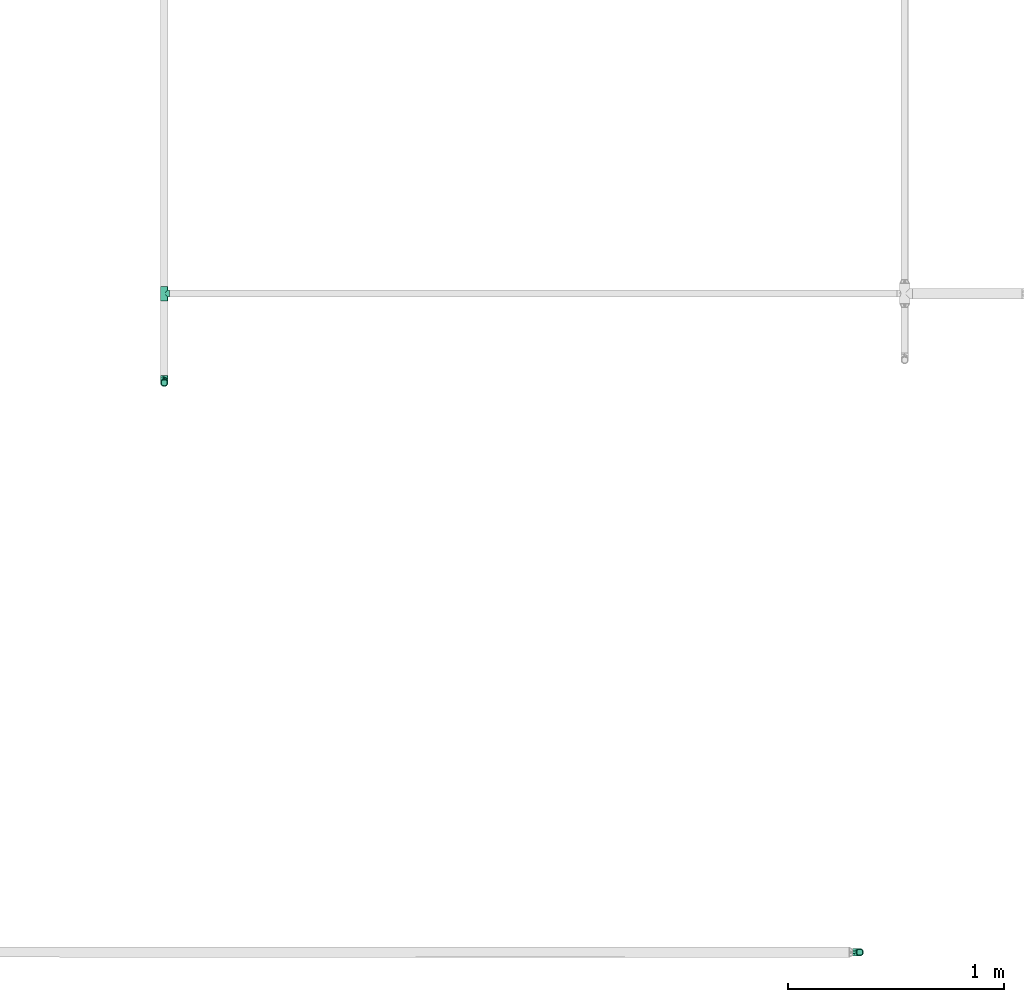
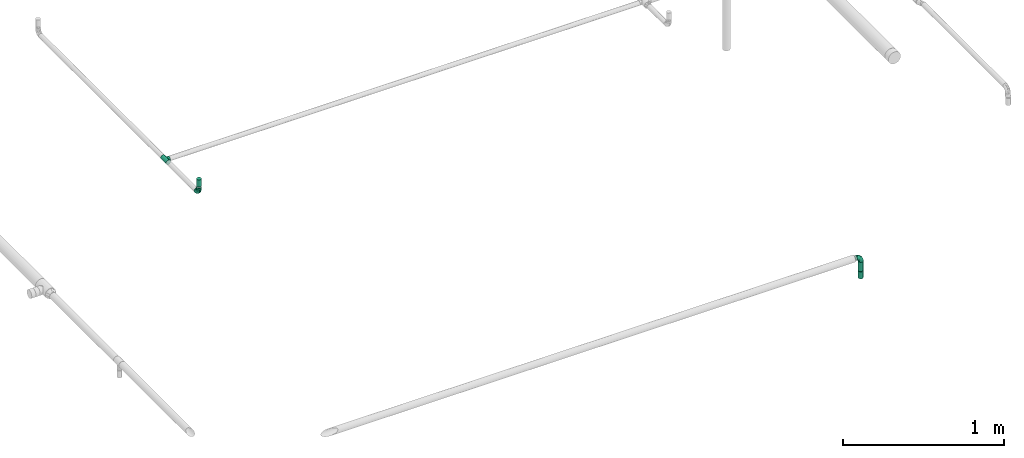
# One storey, part 6 of 32: 3 flow fittings, 2 flow segments, 2 flow terminals.
"""IFC2X3 building model written with IfcOpenShell, lengths in millimetres."""

import ifcopenshell
import ifcopenshell.guid

model = None  # the IFC model being written
_history = None  # IfcOwnerHistory: only IFC2X3 demands one
_inside = {}  # id of a spatial element -> (the spatial element, [elements in it])
_under = {}  # id of a project, library or spatial element -> (it, [spatial elements below it])
_declared = {}  # id of a project -> (the project, [libraries it declares])
_typed = {}  # id of a type object -> (the type object, [elements of that type])
_made_of = {}  # id of a material, layer set ... -> (it, [elements and type objects made of it])


def new_model(schema):
    """Start an empty IFC model of exactly this schema.

    Asked for "IFC4X3", IfcOpenShell would pick the latest addendum, in which some entities
    have other attributes; the version numbers below select the first issue.
    IFC2X3 requires an IfcOwnerHistory on every rooted entity: one is made here for all.
    """
    global model, _history
    if schema == "IFC4X3":
        model = ifcopenshell.file(schema_version=(4, 3, 0, 0))
    else:
        model = ifcopenshell.file(schema=schema)
    _inside.clear()
    _under.clear()
    _declared.clear()
    _typed.clear()
    _made_of.clear()
    _history = None
    if model.schema == "IFC2X3":
        org = make("IfcOrganization", Name="unknown")
        user = make(
            "IfcPersonAndOrganization",
            ThePerson=make("IfcPerson", FamilyName="unknown"),
            TheOrganization=org,
        )
        app = make(
            "IfcApplication",
            ApplicationDeveloper=org,
            Version="unknown",
            ApplicationFullName="unknown",
            ApplicationIdentifier="unknown",
        )
        _history = make(
            "IfcOwnerHistory",
            OwningUser=user,
            OwningApplication=app,
            ChangeAction="ADDED",
            CreationDate=0,
        )
    return model


def make(cls, **values):
    """One entity of the class cls with the attributes given. An attribute that is None is left unset."""
    return model.create_entity(
        cls, **{name: value for name, value in values.items() if value is not None}
    )


def entity(cls, *values):
    """Any entity or typed value of the class cls, its attributes in the order of the schema. None: left unset."""
    e = model.create_entity(cls)
    for i, value in enumerate(values):
        if value is not None:
            e[i] = value
    return e


def rooted(cls, **values):
    """An entity with a GlobalId (a new one), such as an element, a storey or a relation."""
    return make(cls, GlobalId=ifcopenshell.guid.new(), OwnerHistory=_history, **values)


def si_unit(unit_type, name, prefix=None):
    """IfcSIUnit, for example si_unit("LENGTHUNIT", "METRE", prefix="MILLI")."""
    return make("IfcSIUnit", UnitType=unit_type, Prefix=prefix, Name=name)


def converted_unit(unit_type, name, factor, base, dimensions=None, offset=None):
    """IfcConversionBasedUnit, such as the inch: factor (a typed value) times the base unit."""
    return make(
        "IfcConversionBasedUnit"
        if offset is None
        else "IfcConversionBasedUnitWithOffset",
        ConversionOffset=offset,
        Dimensions=None
        if dimensions is None
        else entity("IfcDimensionalExponents", *dimensions),
        UnitType=unit_type,
        Name=name,
        ConversionFactor=make(
            "IfcMeasureWithUnit", ValueComponent=factor, UnitComponent=base
        ),
    )


def derived_unit(unit_type, elements):
    """IfcDerivedUnit: a product of units, each with its exponent."""
    return make(
        "IfcDerivedUnit",
        Elements=[
            make("IfcDerivedUnitElement", Unit=unit, Exponent=power)
            for unit, power in elements
        ],
        UnitType=unit_type,
    )


def assignment(units):
    """IfcUnitAssignment: the units of a project."""
    return None if units is None else make("IfcUnitAssignment", Units=units)


def point(xyz):
    """IfcCartesianPoint."""
    return None if xyz is None else make("IfcCartesianPoint", Coordinates=xyz)


def direction(xyz):
    """IfcDirection."""
    return None if xyz is None else make("IfcDirection", DirectionRatios=xyz)


def frame(location, z_axis=None, x_axis=None):
    """IfcAxis2Placement3D, a coordinate frame: its origin and axes. An axis left out is left unset."""
    return make(
        "IfcAxis2Placement3D",
        Location=point(location),
        Axis=direction(z_axis),
        RefDirection=direction(x_axis),
    )


def frame_2d(location, x_axis=None):
    """IfcAxis2Placement2D, a coordinate frame in the plane: its origin and x axis."""
    return make(
        "IfcAxis2Placement2D", Location=point(location), RefDirection=direction(x_axis)
    )


def origin_with_axes():
    """The frame at (0, 0, 0) with the z axis (0, 0, 1) and the x axis (1, 0, 0) written out."""
    return frame((0.0, 0.0, 0.0), z_axis=(0.0, 0.0, 1.0), x_axis=(1.0, 0.0, 0.0))


def origin_2d_with_axis():
    """The frame at (0, 0) in the plane with the x axis (1, 0) written out."""
    return frame_2d((0.0, 0.0), x_axis=(1.0, 0.0))


def place(relative_to, where):
    """IfcLocalPlacement: puts the frame where relative to a parent placement (None: the world)."""
    return make(
        "IfcLocalPlacement", PlacementRelTo=relative_to, RelativePlacement=where
    )


def context(
    kind, dimensions, precision=None, world=None, true_north=None, identifier=None
):
    """IfcGeometricRepresentationContext, for example the 3D "Model" context."""
    return make(
        "IfcGeometricRepresentationContext",
        ContextIdentifier=identifier,
        ContextType=kind,
        CoordinateSpaceDimension=dimensions,
        Precision=precision,
        WorldCoordinateSystem=world,
        TrueNorth=true_north,
    )


def subcontext(parent, identifier, kind, view, scale=None):
    """IfcGeometricRepresentationSubContext, for example "Body" below "Model"."""
    return make(
        "IfcGeometricRepresentationSubContext",
        ContextIdentifier=identifier,
        ContextType=kind,
        ParentContext=parent,
        TargetScale=scale,
        TargetView=view,
    )


def project(units=None, contexts=None):
    """IfcProject with its units and contexts."""
    return rooted(
        "IfcProject",
        Name="project",
        RepresentationContexts=contexts,
        UnitsInContext=assignment(units),
    )


def spatial(cls, under=None, at=None, **own):
    """A site, building, storey or space (cls), placed at a placement, below another one or the project."""
    s = rooted(cls, ObjectPlacement=at, **own)
    if under is not None:
        _under.setdefault(under.id(), (under, []))[1].append(s)
    return s


def profile(cls, at=None, kind="AREA", **sizes):
    """A parametric profile (cls). Its sizes go by their IFC names, for example OverallWidth=200.0."""
    return make(cls, ProfileType=kind, Position=at, **sizes)


def hollow_circle(**sizes):
    """IfcCircleHollowProfileDef."""
    return profile("IfcCircleHollowProfileDef", **sizes)


def extrude(swept, where, along, depth):
    """IfcExtrudedAreaSolid: the profile swept, set in the frame where, extruded along a direction by depth."""
    return make(
        "IfcExtrudedAreaSolid",
        SweptArea=swept,
        Position=where,
        ExtrudedDirection=direction(along),
        Depth=depth,
    )


def faces_of(points, faces, orient=None, outer=None):
    """IfcFace entities. A face is a list of loops; a loop is a list of indices into points, from 0.

    orient and outer hold one flag for each loop. By default every Orientation is true, the
    first loop of a face is its IfcFaceOuterBound and the others are IfcFaceBound.
    """
    made = []
    for i, loops in enumerate(faces):
        bounds = []
        for j, loop in enumerate(loops):
            is_outer = j == 0 if outer is None else outer[i][j]
            bounds.append(
                make(
                    "IfcFaceOuterBound" if is_outer else "IfcFaceBound",
                    Bound=make("IfcPolyLoop", Polygon=[points[k] for k in loop]),
                    Orientation=True if orient is None else orient[i][j],
                )
            )
        made.append(make("IfcFace", Bounds=bounds))
    return made


def open_shell(faces, orient=None, outer=None):
    """The faces of one IfcOpenShell. surface_model builds it on its shared points."""
    return ("IfcOpenShell", faces, orient, outer)


def surface_model(cls, points, shells):
    """IfcFaceBasedSurfaceModel or IfcShellBasedSurfaceModel (cls): surfaces that need not close."""
    shared = [point(p) for p in points]
    made = [make(c, CfsFaces=faces_of(shared, fs, o, b)) for c, fs, o, b in shells]
    if cls == "IfcFaceBasedSurfaceModel":
        return make(cls, FbsmFaces=made)
    return make(cls, SbsmBoundary=made)


def shape(context_of_items, identifier, shape_type, items):
    """IfcShapeRepresentation: the items that make up one representation, for example the "Body"."""
    return make(
        "IfcShapeRepresentation",
        ContextOfItems=context_of_items,
        RepresentationIdentifier=identifier,
        RepresentationType=shape_type,
        Items=items,
    )


def source(mapping_origin, context_of_items, identifier, shape_type, items):
    """IfcRepresentationMap: a shape defined once, which mapped items show again and again."""
    return make(
        "IfcRepresentationMap",
        MappingOrigin=mapping_origin,
        MappedRepresentation=shape(context_of_items, identifier, shape_type, items),
    )


def transform(
    local_origin,
    x_axis=None,
    y_axis=None,
    z_axis=None,
    scale=None,
    scale2=None,
    scale3=None,
    uniform=True,
):
    """IfcCartesianTransformationOperator3D, or its non-uniform kind. x_axis, y_axis, z_axis: its Axis1, 2, 3."""
    if uniform:
        return make(
            "IfcCartesianTransformationOperator3D",
            Axis1=direction(x_axis),
            Axis2=direction(y_axis),
            LocalOrigin=point(local_origin),
            Scale=scale,
            Axis3=direction(z_axis),
        )
    return make(
        "IfcCartesianTransformationOperator3DnonUniform",
        Axis1=direction(x_axis),
        Axis2=direction(y_axis),
        LocalOrigin=point(local_origin),
        Scale=scale,
        Axis3=direction(z_axis),
        Scale2=scale2,
        Scale3=scale3,
    )


def mapped(mapping_source, mapping_target):
    """IfcMappedItem: shows the shape of a source again, moved by a transform."""
    return make(
        "IfcMappedItem", MappingSource=mapping_source, MappingTarget=mapping_target
    )


def made_of(thing, what):
    """Note that an element or type object is made of a material, layer set ...; save() writes the relation."""
    if what is not None:
        _made_of.setdefault(what.id(), (what, []))[1].append(thing)
    return thing


def type_object(cls, material=None, **own):
    """A type object (cls), such as IfcWallType, which elements share."""
    return made_of(rooted(cls, **own), material)


def element(
    cls,
    number,
    at=None,
    inside=None,
    cuts=None,
    type_object=None,
    material=None,
    context=None,
    identifier="Body",
    shape_type=None,
    held_by="IfcProductDefinitionShape",
    body=None,
    shapes=None,
    **own,
):
    """One element of the class cls, such as IfcWall. Its Tag is "e" and its number.

    at: its placement. inside: the storey or other place that contains it. cuts: it is an
    opening in that element (IfcRelVoidsElement). A single representation is given by context,
    identifier, shape_type and body (its items); several are given by shapes. held_by: the class
    of the entity that holds the representations. save() writes the other relations.
    """
    e = rooted(cls, Tag="e%d" % number, ObjectPlacement=at, **own)
    if body is not None:
        shapes = [shape(context, identifier, shape_type, body)]
    if shapes is not None:
        e.Representation = make(held_by, Representations=shapes)
    if inside is not None:
        _inside.setdefault(inside.id(), (inside, []))[1].append(e)
    if cuts is not None:
        rooted(
            "IfcRelVoidsElement", RelatingBuildingElement=cuts, RelatedOpeningElement=e
        )
    if type_object is not None:
        _typed.setdefault(type_object.id(), (type_object, []))[1].append(e)
    return made_of(e, material)


def aggregate(whole, parts):
    """IfcRelAggregates: a whole, such as a stair, and the parts it consists of."""
    return rooted("IfcRelAggregates", RelatingObject=whole, RelatedObjects=parts)


def save(model, path):
    """Write the relations noted so far, then the file.

    IfcRelAggregates (storeys below a building ...), IfcRelContainedInSpatialStructure (elements
    in a storey), IfcRelDefinesByType, IfcRelAssociatesMaterial and IfcRelDeclares: one each for
    every whole, place, type object, material and project.
    """
    for whole, parts in _under.values():
        aggregate(whole, parts)
    for where, things in _inside.values():
        rooted(
            "IfcRelContainedInSpatialStructure",
            RelatedElements=things,
            RelatingStructure=where,
        )
    for kind, things in _typed.values():
        rooted("IfcRelDefinesByType", RelatedObjects=things, RelatingType=kind)
    for what, things in _made_of.values():
        rooted("IfcRelAssociatesMaterial", RelatedObjects=things, RelatingMaterial=what)
    for by, libraries in _declared.values():
        rooted("IfcRelDeclares", RelatingContext=by, RelatedDefinitions=libraries)
    model.write(path)


model = new_model("IFC2X3")

# Units and contexts
model_context = context("Model", 3, precision=0.01, world=frame((0.0, 4.29681676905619e-09, 0.0)), true_north=direction((4.01073788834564e-13, 1.0)))
plan_context = context("Plan", 3, precision=0.01, world=frame((0.0, 4.29681676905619e-09, 0.0)), true_north=direction((4.01073788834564e-13, 1.0)))
body_context = subcontext(model_context, "Body", "Model", "MODEL_VIEW")
ifc_project = project(units=[converted_unit("PLANEANGLEUNIT", "DEGREE", entity("IfcPositiveLengthMeasure", 0.0174532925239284), si_unit("PLANEANGLEUNIT", "RADIAN"), dimensions=[0, 0, 0, 0, 0, 0, 0]), si_unit("AREAUNIT", "SQUARE_METRE"), si_unit("LENGTHUNIT", "METRE", prefix="MILLI"), si_unit("MASSUNIT", "GRAM", prefix="KILO"), si_unit("POWERUNIT", "WATT"), si_unit("PRESSUREUNIT", "PASCAL", prefix="KILO"), si_unit("FORCEUNIT", "NEWTON", prefix="KILO"), si_unit("ELECTRICVOLTAGEUNIT", "VOLT"), si_unit("ELECTRICCURRENTUNIT", "AMPERE"), si_unit("THERMODYNAMICTEMPERATUREUNIT", "DEGREE_CELSIUS"), si_unit("TIMEUNIT", "SECOND"), si_unit("VOLUMEUNIT", "CUBIC_METRE"), derived_unit("LINEARVELOCITYUNIT", [(si_unit("LENGTHUNIT", "METRE"), 1), (si_unit("TIMEUNIT", "SECOND"), -1)]), derived_unit("VOLUMETRICFLOWRATEUNIT", [(si_unit("VOLUMEUNIT", "CUBIC_METRE"), 1), (si_unit("TIMEUNIT", "SECOND"), -1)]), derived_unit("THERMALTRANSMITTANCEUNIT", [(si_unit("POWERUNIT", "WATT"), 1), (si_unit("THERMODYNAMICTEMPERATUREUNIT", "KELVIN"), -1), (si_unit("AREAUNIT", "SQUARE_METRE"), -1)]), derived_unit("SOUNDPRESSUREUNIT", [(si_unit("PRESSUREUNIT", "PASCAL"), 1)])], contexts=[model_context, plan_context])

# Site, building, storey
site_placement = place(None, frame((0.0, -4.29681676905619e-09, 0.0), z_axis=(0.0, 0.0, 1.0), x_axis=(1.0, 0.0, 0.0)))
site = spatial("IfcSite", under=ifc_project, at=site_placement, CompositionType="ELEMENT")
building_placement = place(site_placement, frame((0.0, 4.29681676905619e-09, 0.0), z_axis=(0.0, 0.0, 1.0), x_axis=(1.0, 0.0, 0.0)))
building = spatial("IfcBuilding", under=site, at=building_placement, Name="mc-building", CompositionType="ELEMENT")
storey_placement = place(building_placement, frame((0.0, 0.0, 205200.0), z_axis=(0.0, 0.0, 1.0), x_axis=(1.0, 0.0, 0.0)))
storey = spatial("IfcBuildingStorey", under=building, at=storey_placement, Name="Nivå D + 1,2 m", CompositionType="ELEMENT", Elevation=205200.0)

# Flow fittings
pipe_fitting_type_1 = type_object("IfcPipeFittingType", Name="magi_pipe_fe_elbow_short_001", PredefinedType="BEND")
shared_shape_1 = source(origin_with_axes(), body_context, "Body", "SurfaceModel", [
    surface_model("IfcShellBasedSurfaceModel", [(-33.8, -11.9501, -11.9501), (-33.8, -14.63583, -8.45), (-33.8, -8.45, -14.63583), (-33.8, 0.0, -16.9), (-33.8, -4.37404, -16.32415), (-33.8, -16.32415, -4.37404), (-33.8, -16.9, 0.0), (-33.8, 11.9501, 11.9501), (-33.8, 14.63583, 8.45), (-33.8, 8.45, 14.63583), (-33.8, -11.9501, 11.9501), (-33.8, -8.45, 14.63583), (-33.8, -14.63583, 8.45), (-33.8, -16.32415, 4.37404), (-33.8, -4.37404, 16.32415), (-33.8, 0.0, 16.9), (-33.8, 16.9, 0.0), (-33.8, 16.32415, -4.37404), (-33.8, 16.32415, 4.37404), (-33.8, 4.37404, -16.32415), (-33.8, 8.45, -14.63583), (-33.8, 14.63583, -8.45), (-33.8, 11.9501, -11.9501), (-33.8, 4.37404, 16.32415), (-4.37404, 33.8, -16.32415), (16.9, 33.8, 0.0), (0.0, 33.8, -16.9), (-16.32415, 33.8, -4.37404), (-8.45, 33.8, -14.63583), (-14.63583, 33.8, -8.45), (-11.9501, 33.8, -11.9501), (16.32415, 33.8, 4.37404), (8.45, 33.8, -14.63583), (14.63583, 33.8, -8.45), (11.9501, 33.8, -11.9501), (4.37404, 33.8, -16.32415), (16.32415, 33.8, -4.37404), (-16.32415, 33.8, 4.37404), (-4.37404, 33.8, 16.32415), (-14.63583, 33.8, 8.45), (-8.45, 33.8, 14.63583), (-11.9501, 33.8, 11.9501), (14.63583, 33.8, 8.45), (8.45, 33.8, 14.63583), (11.9501, 33.8, 11.9501), (0.0, 33.8, 16.9), (4.37404, 33.8, 16.32415), (-16.9, 33.8, 0.0), (-24.79389, -13.12945, 9.48721), (-22.19287, -9.75018, 12.59315), (-24.09897, -14.97035, 0.0), (-14.93934, -10.76256, 8.5297), (-22.46095, -14.75051, 5.27077), (14.75051, 22.46094, 5.27077), (11.9251, 13.23888, 4.33236), (13.04069, 14.39795, 0.0), (7.71387, 13.68847, 11.55891), (9.75018, 22.19287, 12.59315), (4.10169, 13.0571, 14.04018), (-24.84007, -6.39063, 15.2048), (-25.81779, -2.23879, 16.61097), (-23.66549, 2.59054, 16.87119), (-26.50418, 14.06512, 11.08152), (-24.21253, 17.66365, 7.72657), (-29.58514, 15.86957, 7.00283), (-6.17382, -7.5455, 0.0), (-13.23888, -11.9251, 4.33236), (-14.39795, -13.04069, 0.0), (-17.81434, 18.87373, 11.97104), (-6.30846, 29.15138, 15.82987), (-2.31622, 25.28002, 16.85849), (-29.23923, 10.23435, 13.77053), (-1.45439, -2.85688, 7.61475), (-0.28326, 0.34872, 10.09509), (-5.74484, -4.04709, 10.4122), (-4.41137, 11.31918, 16.59407), (-8.39727, 3.10034, 15.7812), (-1.72649, 9.1306, 15.53089), (-17.39909, 24.75344, 7.64977), (-26.19233, 20.0512, 0.0), (-28.14518, 17.29657, 4.25857), (-26.05147, 6.6281, 15.96447), (-5.87354, 16.61944, 16.86968), (-12.51807, 12.51807, 16.48937), (-10.06312, 7.38516, 16.81295), (-3.01882, 3.01882, 13.81718), (-13.0571, -4.10169, 14.04018), (-16.82553, -0.15166, 16.38038), (10.76256, 14.93934, 8.5297), (13.12945, 24.79389, 9.48721), (6.39063, 24.84007, 15.2048), (2.23879, 25.81779, 16.61097), (-13.68847, -7.71387, 11.55891), (14.97035, 24.09897, 0.0), (-7.30894, 22.89991, 16.09489), (-10.67958, 26.17414, 14.008), (-12.78295, 18.26924, 15.06066), (-13.88562, 22.45231, 12.93244), (-18.04944, 15.16501, 14.04434), (-23.11658, 20.08178, 4.02986), (-21.84989, 21.84989, 0.0), (-18.55817, 25.48277, 3.93065), (-13.95142, 26.94732, 11.03289), (-18.57098, 7.23906, 16.59756), (-16.58335, 4.14122, 16.89279), (-17.96666, 11.46709, 15.63151), (-9.84453, 17.54304, 16.18938), (0.15166, 16.82553, 16.38038), (-23.27207, 11.47201, 14.23154), (3.84842, 5.86994, 10.70473), (-8.0212, -7.54413, 7.93275), (1.00345, -2.19508, 4.57414), (5.13203, 3.01004, 5.90201), (5.24161, 1.7543, 2.53265), (8.70457, 7.04947, 3.99182), (-20.0512, 26.19233, 0.0), (8.4852, 8.76699, 7.09296), (-4.55488, -6.72064, 4.90681), (2.05031, -2.05031, 0.0), (7.5455, 6.17382, 0.0), (-26.75399, 2.1369, -16.845), (-14.61995, 24.73803, -11.27736), (-28.45274, -13.45335, -9.81895), (-26.00469, 6.63555, -15.96645), (-23.06726, 20.04573, -4.26202), (-13.80647, -4.26506, -14.17873), (-14.67501, -0.21081, -16.07388), (-6.7902, -0.2828, -13.8478), (-24.53586, 11.08096, -14.13417), (-26.72048, 14.00837, -11.05776), (10.0967, 24.44989, -12.75976), (5.83237, 21.40218, -15.03047), (6.66249, 28.54238, -15.38093), (-20.38182, 15.48705, -12.74596), (12.53268, 21.23441, -9.15363), (12.54494, 15.67504, -5.54878), (9.7522, 12.89279, -8.66343), (-15.65186, 19.64213, -13.01327), (-12.03528, 20.66498, -14.67665), (-15.61907, 15.61906, -14.83879), (-25.56551, -15.26206, 0.0), (-24.65452, -15.12934, -5.50955), (13.45335, 28.45274, -9.81895), (15.12934, 24.65452, -5.50955), (-7.35442, -8.31014, -5.65563), (-15.67504, -12.54494, -5.54878), (-24.44989, -10.0967, -12.75976), (0.16522, 0.41303, -9.71728), (-5.70658, -5.33066, -8.89288), (-5.13869, -2.37198, -11.53565), (-21.23441, -12.53268, -9.15363), (0.71146, 7.93863, -14.09382), (0.21081, 14.67501, -16.07388), (3.49291, 14.42772, -14.76381), (-24.89911, -2.13088, -16.591), (-28.54238, -6.66249, -15.38093), (-18.44386, -7.71663, -13.26957), (2.13088, 24.89911, -16.591), (-28.64342, 17.44413, -2.89318), (1.70017, -1.28722, -5.09504), (-16.57067, 26.81947, -7.36596), (-17.69055, 27.4263, -3.76405), (-12.89279, -9.7522, -8.66343), (-5.96611, 5.96611, -15.95814), (-20.53709, 20.09345, -8.28985), (-2.1369, 26.75399, -16.845), (-6.89872, 24.58781, -16.02578), (-10.60739, 26.53157, -13.98044), (-21.40218, -5.83237, -15.03047), (2.93192, 5.89627, -11.55917), (6.89393, 12.61842, -11.82233), (5.58056, 5.95325, -8.79455), (-3.99512, 18.61798, -16.89635), (8.31014, 7.35442, -5.65563), (-9.1383, 9.86148, -16.89041), (-9.99983, 16.02119, -16.39699), (-16.68576, 9.78031, -16.34199), (-27.01915, 16.61158, -7.12979), (15.26206, 25.56551, 0.0), (-18.61798, 3.99512, -16.89635), (-19.37495, 27.82495, 0.0), (-12.61842, -6.89393, -11.82233), (-18.84705, 19.14018, -10.96545)], [open_shell([[[0, 1, 2]], [[3, 4, 2]], [[5, 6, 1]], [[7, 8, 9]], [[10, 11, 12]], [[13, 12, 11]], [[14, 15, 11]], [[16, 17, 18]], [[3, 6, 19]], [[20, 19, 17]], [[20, 17, 21]], [[22, 20, 21]], [[17, 19, 6]], [[2, 1, 6]], [[2, 6, 3]], [[6, 18, 17]], [[23, 18, 6]], [[8, 18, 23]], [[8, 23, 9]], [[13, 23, 6]], [[23, 13, 11]], [[11, 15, 23]], [[24, 25, 26]], [[27, 24, 28]], [[29, 27, 28]], [[29, 28, 30]], [[31, 25, 24]], [[32, 33, 34]], [[32, 35, 26]], [[33, 25, 36]], [[33, 32, 26]], [[25, 33, 26]], [[24, 27, 37]], [[31, 24, 37]], [[38, 37, 39]], [[40, 38, 39]], [[40, 39, 41]], [[31, 37, 38]], [[42, 43, 44]], [[43, 42, 31]], [[43, 45, 46]], [[43, 31, 38]], [[38, 45, 43]], [[37, 27, 47]], [[10, 48, 49]], [[13, 6, 50]], [[51, 48, 52]], [[53, 54, 55]], [[48, 10, 12]], [[13, 52, 12]], [[56, 57, 58]], [[49, 11, 10]], [[49, 59, 11]], [[15, 60, 61]], [[62, 63, 64]], [[65, 66, 67]], [[57, 44, 43]], [[62, 68, 63]], [[38, 69, 70]], [[9, 71, 7]], [[14, 60, 15]], [[72, 73, 74]], [[75, 76, 77]], [[7, 62, 8]], [[39, 37, 78]], [[79, 16, 80]], [[64, 18, 8]], [[15, 61, 23]], [[23, 81, 9]], [[82, 83, 84]], [[74, 85, 86]], [[59, 86, 87]], [[88, 89, 57]], [[90, 43, 46]], [[42, 53, 31]], [[46, 45, 91]], [[54, 53, 88]], [[42, 89, 53]], [[92, 86, 49]], [[89, 42, 44]], [[11, 59, 14]], [[53, 55, 93]], [[93, 31, 53]], [[66, 52, 67]], [[94, 82, 70]], [[95, 96, 94]], [[97, 98, 96]], [[79, 99, 100]], [[40, 41, 95]], [[101, 100, 99]], [[68, 78, 63]], [[38, 40, 69]], [[16, 18, 80]], [[95, 94, 69]], [[78, 101, 99]], [[41, 102, 95]], [[70, 45, 38]], [[97, 95, 102]], [[13, 50, 52]], [[90, 57, 43]], [[57, 90, 58]], [[81, 23, 61]], [[103, 104, 84]], [[105, 81, 103]], [[41, 39, 102]], [[106, 96, 83]], [[94, 106, 82]], [[91, 70, 107]], [[71, 62, 7]], [[62, 108, 98]], [[86, 59, 49]], [[67, 52, 50]], [[60, 59, 87]], [[92, 49, 51]], [[86, 85, 76]], [[91, 90, 46]], [[25, 31, 93]], [[107, 77, 58]], [[107, 58, 90]], [[58, 85, 109]], [[110, 74, 92]], [[72, 74, 110]], [[66, 51, 52]], [[72, 111, 112]], [[113, 114, 112]], [[56, 88, 57]], [[52, 48, 12]], [[49, 48, 51]], [[57, 89, 44]], [[53, 89, 88]], [[103, 81, 61]], [[71, 81, 108]], [[18, 64, 80]], [[63, 78, 99]], [[47, 115, 101]], [[101, 115, 100]], [[39, 78, 102]], [[68, 102, 78]], [[97, 96, 95]], [[105, 98, 108]], [[103, 84, 83]], [[107, 70, 82]], [[76, 84, 87]], [[82, 84, 75]], [[70, 91, 45]], [[90, 91, 107]], [[59, 60, 14]], [[61, 60, 87]], [[73, 85, 74]], [[109, 112, 116]], [[103, 61, 104]], [[105, 103, 83]], [[96, 105, 83]], [[81, 105, 108]], [[96, 98, 105]], [[62, 98, 68]], [[61, 87, 104]], [[87, 84, 104]], [[86, 76, 87]], [[77, 76, 85]], [[58, 77, 85]], [[75, 77, 107]], [[82, 75, 107]], [[76, 75, 84]], [[81, 71, 9]], [[62, 71, 108]], [[95, 69, 40]], [[70, 69, 94]], [[62, 64, 8]], [[80, 63, 99]], [[63, 80, 64]], [[80, 99, 79]], [[66, 65, 117]], [[110, 66, 117]], [[112, 114, 116]], [[118, 117, 65]], [[110, 92, 51]], [[112, 111, 113]], [[119, 55, 54]], [[74, 86, 92]], [[58, 109, 56]], [[116, 56, 109]], [[66, 110, 51]], [[72, 110, 117]], [[111, 72, 117]], [[73, 112, 109]], [[117, 118, 111]], [[113, 111, 118]], [[118, 119, 113]], [[114, 119, 54]], [[119, 114, 113]], [[116, 54, 88]], [[54, 116, 114]], [[116, 88, 56]], [[112, 73, 72]], [[85, 73, 109]], [[78, 37, 101]], [[47, 101, 37]], [[102, 68, 97]], [[97, 68, 98]], [[82, 106, 83]], [[94, 96, 106]], [[19, 120, 3]], [[29, 30, 121]], [[0, 122, 1]], [[20, 123, 19]], [[100, 124, 79]], [[125, 126, 127]], [[128, 22, 129]], [[130, 131, 132]], [[128, 129, 133]], [[134, 135, 136]], [[137, 138, 139]], [[128, 20, 22]], [[67, 140, 141]], [[134, 142, 143]], [[141, 5, 1]], [[144, 65, 145]], [[146, 0, 2]], [[147, 148, 149]], [[145, 141, 150]], [[151, 152, 153]], [[154, 4, 3]], [[2, 155, 146]], [[150, 146, 156]], [[155, 2, 4]], [[143, 135, 134]], [[35, 157, 26]], [[16, 79, 158]], [[148, 159, 144]], [[160, 161, 27]], [[145, 162, 144]], [[163, 152, 151]], [[27, 29, 160]], [[121, 164, 160]], [[32, 34, 130]], [[26, 165, 24]], [[24, 165, 166]], [[142, 34, 33]], [[30, 28, 167]], [[124, 161, 164]], [[157, 35, 132]], [[155, 154, 168]], [[123, 20, 128]], [[169, 170, 171]], [[172, 157, 152]], [[24, 166, 28]], [[132, 35, 32]], [[142, 130, 34]], [[168, 154, 126]], [[136, 135, 173]], [[133, 137, 139]], [[22, 21, 129]], [[170, 131, 130]], [[33, 36, 143]], [[172, 174, 175]], [[176, 123, 128]], [[158, 177, 17]], [[135, 55, 119]], [[167, 28, 166]], [[175, 166, 172]], [[137, 167, 138]], [[122, 141, 1]], [[140, 6, 5]], [[36, 25, 178]], [[170, 130, 134]], [[152, 157, 131]], [[165, 157, 172]], [[153, 170, 151]], [[152, 163, 174]], [[168, 125, 156]], [[122, 146, 150]], [[120, 154, 3]], [[179, 174, 126]], [[179, 126, 154]], [[126, 163, 127]], [[162, 145, 150]], [[140, 5, 141]], [[36, 178, 143]], [[55, 143, 178]], [[177, 129, 21]], [[128, 133, 139]], [[176, 128, 139]], [[120, 123, 179]], [[121, 160, 29]], [[161, 100, 180]], [[166, 175, 138]], [[121, 30, 167]], [[161, 47, 27]], [[79, 124, 158]], [[124, 164, 177]], [[161, 124, 100]], [[136, 171, 170]], [[127, 163, 151]], [[147, 171, 159]], [[148, 144, 162]], [[127, 151, 169]], [[127, 181, 125]], [[129, 177, 164]], [[21, 17, 177]], [[159, 65, 144]], [[67, 141, 145]], [[143, 55, 135]], [[135, 119, 173]], [[123, 120, 19]], [[154, 120, 179]], [[157, 165, 26]], [[166, 165, 172]], [[172, 152, 174]], [[176, 139, 175]], [[126, 174, 163]], [[176, 174, 179]], [[174, 176, 175]], [[123, 176, 179]], [[150, 181, 162]], [[127, 149, 181]], [[181, 148, 162]], [[159, 148, 147]], [[171, 136, 173]], [[170, 134, 136]], [[159, 171, 173]], [[171, 147, 169]], [[169, 147, 149]], [[151, 170, 169]], [[164, 182, 129]], [[182, 121, 137]], [[181, 149, 148]], [[169, 149, 127]], [[182, 137, 133]], [[167, 137, 121]], [[166, 138, 167]], [[175, 139, 138]], [[129, 182, 133]], [[121, 182, 164]], [[161, 160, 164]], [[47, 161, 180]], [[177, 158, 124]], [[16, 158, 17]], [[130, 132, 32]], [[157, 132, 131]], [[143, 142, 33]], [[130, 142, 134]], [[154, 155, 4]], [[146, 155, 168]], [[146, 122, 0]], [[141, 122, 150]], [[152, 131, 153]], [[159, 119, 118]], [[67, 145, 65]], [[170, 153, 131]], [[119, 159, 173]], [[159, 118, 65]], [[156, 125, 181]], [[126, 125, 168]], [[150, 156, 181]], [[168, 156, 146]]])]),
])
for number, where, z_axis, x_axis, name in (
    (1, (328061.66405, 459420.22637, 4347.43145999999), (-0.000266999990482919, -0.999999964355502, 0.0), (0.0, 0.0, 1.0), "magi_pipe_fe_elbow_short_001"),
    (2, (324834.97595, 462061.9875, 4357.43145999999), (1.0, 0.0, 0.0), (0.0, 0.0, -1.0), "magi_pipe_fe_elbow_short_001"),
):
    element("IfcFlowFitting", number, at=place(storey_placement, frame(where, z_axis=z_axis, x_axis=x_axis)), inside=storey, type_object=pipe_fitting_type_1, Name=name, context=body_context, shape_type="MappedRepresentation", body=[
        mapped(shared_shape_1, transform((0.0, 0.0, 0.0), scale=1.0)),
    ])
pipe_fitting_type_2 = type_object("IfcPipeFittingType", Name="magi_pipe_fe_tee_centric_90_001", PredefinedType="JUNCTION")
shared_shape_2 = source(origin_with_axes(), body_context, "Body", "SurfaceModel", [
    surface_model("IfcShellBasedSurfaceModel", [(-33.8, 4.37404, -16.32415), (-33.8, 0.0, -16.9), (-33.8, 16.32415, -4.37404), (-33.8, 8.45, -14.63583), (-33.8, 11.9501, -11.9501), (-33.8, 14.63583, -8.45), (-33.8, -16.9, 0.0), (-33.8, -11.9501, -11.9501), (-33.8, -14.63583, -8.45), (-33.8, -8.45, -14.63583), (-33.8, -4.37404, -16.32415), (-33.8, -16.32415, -4.37404), (-33.8, 14.63583, 8.45), (-33.8, 16.32415, 4.37404), (-33.8, -8.45, 14.63583), (-33.8, 8.45, 14.63583), (-33.8, 11.9501, 11.9501), (-33.8, 4.37404, 16.32415), (-33.8, 0.0, 16.9), (-33.8, -11.9501, 11.9501), (-33.8, -14.63583, 8.45), (-33.8, -16.32415, 4.37404), (-33.8, -4.37404, 16.32415), (-33.8, 16.9, 0.0), (33.8, 4.37404, -16.32415), (33.8, -16.9, 0.0), (33.8, 0.0, -16.9), (33.8, 14.63583, -8.45), (33.8, 8.45, -14.63583), (33.8, 16.32415, -4.37404), (33.8, 11.9501, -11.9501), (33.8, -16.32415, 4.37404), (33.8, -8.45, -14.63583), (33.8, -4.37404, -16.32415), (33.8, -11.9501, -11.9501), (33.8, -14.63583, -8.45), (33.8, -16.32415, -4.37404), (33.8, 16.32415, 4.37404), (33.8, 8.45, 14.63583), (33.8, 14.63583, 8.45), (33.8, 11.9501, 11.9501), (33.8, -8.45, 14.63583), (33.8, 4.37404, 16.32415), (33.8, -14.63583, 8.45), (33.8, -11.9501, 11.9501), (33.8, 0.0, 16.9), (33.8, -4.37404, 16.32415), (33.8, 16.9, 0.0), (16.28698, -16.28698, 4.51047), (16.9, -16.9, 0.0), (14.62704, -14.62704, 8.4652), (9.47213, -9.47213, 13.99602), (12.26343, -12.26343, 11.62834), (-16.9, -16.9, 0.0), (-16.28698, -16.28698, 4.51047), (-14.62704, -14.62704, 8.4652), (-12.26343, -12.26343, 11.62834), (-9.47213, -9.47213, 13.99602), (-6.42894, -6.42894, 15.62942), (6.42894, -6.42894, 15.62942), (3.24522, -3.24522, 16.58549), (0.0, 0.0, 16.9), (-3.24522, -3.24522, 16.58549), (3.24522, -3.24522, -16.58549), (0.0, 0.0, -16.9), (-3.24522, -3.24522, -16.58549), (-6.42894, -6.42894, -15.62942), (6.42894, -6.42894, -15.62942), (9.47213, -9.47213, -13.99602), (12.26343, -12.26343, -11.62834), (14.62704, -14.62704, -8.4652), (16.28698, -16.28698, -4.51047), (-9.47213, -9.47213, -13.99602), (-12.26343, -12.26343, -11.62834), (-16.28698, -16.28698, -4.51047), (-14.62704, -14.62704, -8.4652), (4.37404, -25.35, -16.32415), (-16.9, -25.35, 0.0), (0.0, -25.35, -16.9), (14.63583, -25.35, -8.45), (8.45, -25.35, -14.63583), (16.32415, -25.35, -4.37404), (11.9501, -25.35, -11.9501), (-11.9501, -25.35, -11.9501), (-8.45, -25.35, -14.63583), (-4.37404, -25.35, -16.32415), (-14.63583, -25.35, -8.45), (-16.32415, -25.35, -4.37404), (16.9, -25.35, 0.0), (8.45, -25.35, 14.63583), (16.32415, -25.35, 4.37404), (14.63583, -25.35, 8.45), (-8.45, -25.35, 14.63583), (11.9501, -25.35, 11.9501), (4.37404, -25.35, 16.32415), (-16.32415, -25.35, 4.37404), (-11.9501, -25.35, 11.9501), (-14.63583, -25.35, 8.45), (0.0, -25.35, 16.9), (-4.37404, -25.35, 16.32415)], [open_shell([[[0, 1, 2]], [[3, 0, 4]], [[0, 2, 5]], [[4, 0, 5]], [[6, 2, 1]], [[7, 8, 9]], [[1, 10, 9]], [[11, 6, 8]], [[1, 9, 8]], [[1, 8, 6]], [[6, 12, 2]], [[12, 13, 2]], [[14, 12, 6]], [[12, 14, 15]], [[16, 12, 15]], [[17, 15, 18]], [[19, 14, 20]], [[21, 20, 14]], [[22, 18, 14]], [[14, 6, 21]], [[14, 18, 15]], [[23, 2, 13]], [[24, 25, 26]], [[27, 24, 28]], [[27, 29, 24]], [[27, 28, 30]], [[31, 25, 24]], [[26, 32, 33]], [[26, 34, 32]], [[35, 25, 36]], [[35, 34, 26]], [[25, 35, 26]], [[24, 29, 31]], [[29, 37, 38]], [[38, 37, 39]], [[38, 31, 29]], [[38, 39, 40]], [[41, 38, 42]], [[43, 41, 44]], [[41, 43, 31]], [[41, 45, 46]], [[41, 31, 38]], [[42, 45, 41]], [[29, 47, 37]], [[31, 43, 48]], [[25, 31, 49]], [[49, 31, 48]], [[43, 50, 48]], [[44, 41, 51]], [[50, 43, 52]], [[51, 52, 44]], [[52, 43, 44]], [[53, 54, 21]], [[53, 21, 6]], [[21, 54, 20]], [[54, 55, 20]], [[56, 57, 19]], [[19, 20, 56]], [[19, 57, 14]], [[56, 20, 55]], [[14, 57, 58]], [[51, 41, 59]], [[60, 45, 61]], [[59, 46, 60]], [[46, 59, 41]], [[60, 46, 45]], [[61, 45, 42]], [[39, 37, 13]], [[16, 38, 40]], [[12, 40, 39]], [[42, 38, 15]], [[23, 37, 47]], [[62, 61, 18]], [[62, 22, 58]], [[22, 62, 18]], [[58, 22, 14]], [[61, 17, 18]], [[42, 17, 61]], [[15, 17, 42]], [[15, 38, 16]], [[12, 16, 40]], [[13, 12, 39]], [[37, 23, 13]], [[5, 27, 30]], [[23, 47, 29]], [[30, 28, 3]], [[27, 2, 29]], [[26, 33, 63]], [[26, 64, 24]], [[64, 26, 63]], [[28, 24, 0]], [[64, 0, 24]], [[4, 30, 3]], [[2, 27, 5]], [[5, 30, 4]], [[2, 23, 29]], [[65, 66, 10]], [[1, 0, 64]], [[1, 65, 10]], [[66, 9, 10]], [[0, 3, 28]], [[1, 64, 65]], [[63, 33, 67]], [[32, 34, 68]], [[69, 68, 34]], [[35, 70, 69]], [[69, 34, 35]], [[32, 68, 67]], [[36, 25, 49]], [[36, 71, 35]], [[71, 36, 49]], [[35, 71, 70]], [[72, 9, 66]], [[72, 7, 9]], [[7, 72, 73]], [[7, 73, 8]], [[74, 53, 11]], [[75, 74, 8]], [[74, 11, 8]], [[11, 53, 6]], [[75, 8, 73]], [[32, 67, 33]], [[76, 77, 78]], [[79, 76, 80]], [[79, 81, 76]], [[79, 80, 82]], [[77, 76, 81]], [[78, 83, 84]], [[84, 85, 78]], [[86, 77, 87]], [[83, 78, 86]], [[77, 86, 78]], [[81, 88, 77]], [[89, 88, 90]], [[89, 90, 91]], [[92, 77, 89]], [[89, 91, 93]], [[92, 89, 94]], [[95, 96, 97]], [[96, 95, 92]], [[92, 98, 99]], [[95, 77, 92]], [[94, 98, 92]], [[89, 77, 88]], [[77, 95, 53]], [[54, 53, 95]], [[97, 96, 56]], [[96, 92, 57]], [[95, 97, 54]], [[58, 92, 99]], [[55, 54, 97]], [[56, 55, 97]], [[58, 57, 92]], [[98, 61, 62]], [[58, 99, 62]], [[56, 96, 57]], [[62, 99, 98]], [[94, 60, 98]], [[89, 59, 94]], [[91, 90, 48]], [[52, 93, 91]], [[93, 51, 89]], [[49, 90, 88]], [[59, 60, 94]], [[51, 59, 89]], [[49, 48, 90]], [[50, 52, 91]], [[48, 50, 91]], [[51, 93, 52]], [[98, 60, 61]], [[88, 81, 49]], [[71, 49, 81]], [[79, 82, 69]], [[82, 80, 68]], [[81, 79, 71]], [[67, 80, 76]], [[70, 71, 79]], [[69, 70, 79]], [[67, 68, 80]], [[78, 64, 63]], [[67, 76, 63]], [[69, 82, 68]], [[63, 76, 78]], [[85, 65, 78]], [[84, 66, 85]], [[86, 87, 74]], [[86, 73, 83]], [[72, 84, 83]], [[53, 87, 77]], [[66, 65, 85]], [[72, 66, 84]], [[53, 74, 87]], [[75, 73, 86]], [[74, 75, 86]], [[72, 83, 73]], [[78, 65, 64]]])]),
])
flow_fitting_placement = place(storey_placement, frame((324834.97595, 462475.84044, 4357.43145999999), z_axis=(0.0, 0.0, -1.0), x_axis=(0.0, -1.0, 0.0)))
element("IfcFlowFitting", 3, at=flow_fitting_placement, inside=storey, type_object=pipe_fitting_type_2, Name="magi_pipe_fe_tee_centric_90_001", context=body_context, shape_type="MappedRepresentation", body=[
    mapped(shared_shape_2, transform((0.0, 0.0, 0.0), scale=1.0)),
])

# Flow segments
pipe_segment_type = type_object("IfcPipeSegmentType", Name="Stålrør normaltykke", PredefinedType="RIGIDSEGMENT")
shared_shape_3 = source(origin_with_axes(), body_context, "Body", "SweptSolid", [
    extrude(hollow_circle(Radius=16.9, WallThickness=2.0, at=origin_2d_with_axis()), frame((0.0, 0.0, 0.0), z_axis=(1.0, 0.0, 0.0), x_axis=(0.0, 1.0, 0.0)), (0.0, 0.0, 1.0), 12.5),
])
flow_segment_1_placement = place(storey_placement, frame((324834.97595, 462061.9875, 4402.73146000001), z_axis=(-1.0, 0.0, 0.0), x_axis=(0.0, 0.0, -1.0)))
element("IfcFlowSegment", 4, at=flow_segment_1_placement, inside=storey, type_object=pipe_segment_type, Name="Stålrør normaltykke", context=body_context, shape_type="MappedRepresentation", body=[
    mapped(shared_shape_3, transform((0.0, 0.0, 0.0), scale=1.0)),
])
shared_shape_4 = source(origin_with_axes(), body_context, "Body", "SweptSolid", [
    extrude(hollow_circle(Radius=16.9, WallThickness=2.0, at=origin_2d_with_axis()), frame((0.0, 0.0, 0.0), z_axis=(1.0, 0.0, 0.0), x_axis=(0.0, 1.0, 0.0)), (0.0, 0.0, 1.0), 69.7),
])
flow_segment_2_placement = place(storey_placement, frame((328061.66405, 459420.22637, 4313.63146), z_axis=(0.0, 1.0, 0.0), x_axis=(0.0, 0.0, -1.0)))
element("IfcFlowSegment", 5, at=flow_segment_2_placement, inside=storey, type_object=pipe_segment_type, Name="Stålrør normaltykke", context=body_context, shape_type="MappedRepresentation", body=[
    mapped(shared_shape_4, transform((0.0, 0.0, 0.0), scale=1.0)),
])

# Flow terminals
fire_suppression_terminal_type_1 = type_object("IfcFireSuppressionTerminalType", Name="SP-15-K80-68DGR-STD-NEDOVER", PredefinedType="NOTDEFINED")
shared_shape_5 = source(origin_with_axes(), body_context, "Body", "SurfaceModel", [
    surface_model("IfcShellBasedSurfaceModel", [(4.1411, -15.45481, 53.0), (8.0, -13.85641, 53.0), (11.31371, -11.31371, 53.0), (-8.0, -13.85641, 53.0), (15.45481, -4.1411, 53.0), (16.0, 0.0, 53.0), (13.85641, -8.0, 53.0), (0.0, -16.0, 53.0), (-4.1411, -15.45481, 53.0), (-13.85641, -8.0, 53.0), (-11.31371, -11.31371, 53.0), (-15.45481, -4.1411, 53.0), (15.45481, 4.1411, 53.0), (13.85641, 8.0, 53.0), (11.31371, 11.31371, 53.0), (-4.1411, 15.45481, 53.0), (8.0, 13.85641, 53.0), (4.1411, 15.45481, 53.0), (0.0, 16.0, 53.0), (-13.85641, 8.0, 53.0), (-15.45481, 4.1411, 53.0), (-16.0, 0.0, 53.0), (-11.31371, 11.31371, 53.0), (-8.0, 13.85641, 53.0), (0.0, 16.0, 0.0), (4.1411, 15.45481, 0.0), (8.0, 13.85641, 0.0), (-4.1411, 15.45481, 0.0), (11.31371, 11.31371, 0.0), (13.85641, 8.0, 0.0), (15.45481, 4.1411, 0.0), (-15.45481, -4.1411, 0.0), (-11.31371, 11.31371, 0.0), (-8.0, 13.85641, 0.0), (-13.85641, 8.0, 0.0), (-15.45481, 4.1411, 0.0), (-16.0, 0.0, 0.0), (4.1411, -15.45481, 0.0), (16.0, 0.0, 0.0), (15.45481, -4.1411, 0.0), (13.85641, -8.0, 0.0), (11.31371, -11.31371, 0.0), (8.0, -13.85641, 0.0), (-8.0, -13.85641, 0.0), (-13.85641, -8.0, 0.0), (-11.31371, -11.31371, 0.0), (0.0, -16.0, 0.0), (-4.1411, -15.45481, 0.0)], [open_shell([[[0, 1, 2]], [[3, 0, 2]], [[4, 5, 2]], [[4, 2, 6]], [[3, 2, 5]], [[7, 3, 8]], [[7, 0, 3]], [[3, 9, 10]], [[9, 3, 11]], [[5, 11, 3]], [[5, 12, 11]], [[12, 13, 14]], [[15, 12, 14]], [[16, 17, 18]], [[14, 16, 15]], [[18, 15, 16]], [[11, 19, 20]], [[21, 11, 20]], [[22, 15, 23]], [[15, 22, 19]], [[19, 11, 15]], [[11, 12, 15]], [[24, 25, 26]], [[27, 24, 26]], [[28, 29, 30]], [[27, 26, 28]], [[27, 28, 31]], [[27, 32, 33]], [[32, 27, 34]], [[34, 31, 35]], [[31, 34, 27]], [[35, 31, 36]], [[28, 30, 31]], [[37, 38, 39]], [[37, 39, 40]], [[41, 42, 37]], [[41, 37, 40]], [[38, 37, 43]], [[44, 43, 45]], [[43, 44, 31]], [[43, 46, 47]], [[43, 31, 38]], [[37, 46, 43]], [[38, 31, 30]], [[11, 31, 44]], [[45, 9, 44]], [[3, 43, 47]], [[45, 43, 10]], [[8, 47, 46]], [[31, 21, 36]], [[31, 11, 21]], [[44, 9, 11]], [[45, 10, 9]], [[3, 10, 43]], [[47, 8, 3]], [[46, 7, 8]], [[0, 37, 42]], [[41, 1, 42]], [[6, 40, 39]], [[41, 40, 2]], [[4, 39, 38]], [[37, 0, 7]], [[42, 1, 0]], [[41, 2, 1]], [[40, 6, 2]], [[4, 6, 39]], [[38, 5, 4]], [[37, 7, 46]], [[12, 38, 30]], [[13, 30, 29]], [[16, 26, 25]], [[17, 25, 24]], [[30, 13, 12]], [[12, 5, 38]], [[28, 14, 13]], [[28, 26, 14]], [[14, 26, 16]], [[25, 17, 16]], [[28, 13, 29]], [[24, 18, 17]], [[15, 27, 33]], [[32, 23, 33]], [[19, 34, 35]], [[32, 34, 22]], [[20, 35, 36]], [[27, 15, 18]], [[33, 23, 15]], [[32, 22, 23]], [[34, 19, 22]], [[20, 19, 35]], [[36, 21, 20]], [[27, 18, 24]]])]),
])
flow_terminal_1_placement = place(storey_placement, frame((324834.97595, 462061.9875, 4412.08345999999), z_axis=(0.0, 0.0, 1.0), x_axis=(0.0, -1.0, 0.0)))
element("IfcFlowTerminal", 6, at=flow_terminal_1_placement, inside=storey, type_object=fire_suppression_terminal_type_1, Name="SP-15-K80-68DGR-STD-NEDOVER", context=body_context, shape_type="MappedRepresentation", body=[
    mapped(shared_shape_5, transform((0.0, 0.0, 0.0), scale=1.0)),
])
fire_suppression_terminal_type_2 = type_object("IfcFireSuppressionTerminalType", Name="SP-15-K80-68DGR-STD", PredefinedType="NOTDEFINED")
shared_shape_6 = source(origin_with_axes(), body_context, "Body", "SurfaceModel", [
    surface_model("IfcShellBasedSurfaceModel", [(15.45481, -4.1411, 53.0), (13.85641, -8.0, 53.0), (15.45481, -4.1411, 0.0), (16.0, 0.0, 0.0), (16.0, 0.0, 53.0), (15.45481, 4.1411, 0.0), (13.85641, 8.0, 53.0), (15.45481, 4.1411, 53.0), (11.31371, 11.31371, 53.0), (8.0, 13.85641, 53.0), (4.1411, 15.45481, 53.0), (-8.0, 13.85641, 53.0), (-4.1411, 15.45481, 53.0), (0.0, 16.0, 53.0), (-11.31371, 11.31371, 53.0), (-13.85641, 8.0, 53.0), (-15.45481, 4.1411, 53.0), (11.31371, -11.31371, 53.0), (-16.0, 0.0, 53.0), (0.0, -16.0, 53.0), (4.1411, -15.45481, 53.0), (8.0, -13.85641, 53.0), (-13.85641, -8.0, 53.0), (-11.31371, -11.31371, 53.0), (-15.45481, -4.1411, 53.0), (-8.0, -13.85641, 53.0), (-4.1411, -15.45481, 53.0), (8.0, -13.85641, 0.0), (4.1411, -15.45481, 0.0), (0.0, -16.0, 0.0), (-4.1411, -15.45481, 0.0), (13.85641, -8.0, 0.0), (11.31371, -11.31371, 0.0), (-16.0, 0.0, 0.0), (-8.0, -13.85641, 0.0), (-11.31371, -11.31371, 0.0), (-13.85641, -8.0, 0.0), (-15.45481, -4.1411, 0.0), (4.1411, 15.45481, 0.0), (13.85641, 8.0, 0.0), (8.0, 13.85641, 0.0), (11.31371, 11.31371, 0.0), (-15.45481, 4.1411, 0.0), (-11.31371, 11.31371, 0.0), (-8.0, 13.85641, 0.0), (-13.85641, 8.0, 0.0), (-4.1411, 15.45481, 0.0), (0.0, 16.0, 0.0)], [open_shell([[[0, 1, 2]], [[3, 4, 0]], [[5, 6, 7]], [[7, 4, 3]], [[8, 9, 10]], [[8, 10, 11]], [[8, 4, 7]], [[6, 8, 7]], [[4, 8, 11]], [[12, 11, 13]], [[11, 10, 13]], [[14, 15, 11]], [[16, 11, 15]], [[11, 16, 4]], [[16, 0, 4]], [[17, 1, 0]], [[18, 17, 16]], [[19, 20, 21]], [[18, 21, 17]], [[21, 18, 19]], [[22, 23, 24]], [[18, 24, 23]], [[25, 26, 23]], [[18, 23, 26]], [[26, 19, 18]], [[0, 16, 17]], [[27, 28, 29]], [[27, 29, 30]], [[2, 31, 32]], [[32, 27, 33]], [[2, 32, 33]], [[34, 35, 30]], [[36, 30, 35]], [[36, 37, 30]], [[37, 27, 30]], [[37, 33, 27]], [[33, 5, 2]], [[38, 5, 33]], [[39, 5, 38]], [[38, 40, 41]], [[39, 38, 41]], [[33, 42, 38]], [[43, 44, 45]], [[42, 45, 44]], [[46, 47, 44]], [[38, 42, 44]], [[44, 47, 38]], [[5, 3, 2]], [[45, 42, 16]], [[45, 15, 43]], [[46, 44, 11]], [[14, 44, 43]], [[47, 46, 12]], [[33, 18, 42]], [[18, 16, 42]], [[16, 15, 45]], [[15, 14, 43]], [[44, 14, 11]], [[11, 12, 46]], [[12, 13, 47]], [[40, 38, 10]], [[40, 9, 41]], [[5, 39, 6]], [[8, 39, 41]], [[3, 5, 7]], [[13, 10, 38]], [[10, 9, 40]], [[9, 8, 41]], [[8, 6, 39]], [[47, 13, 38]], [[2, 3, 0]], [[31, 2, 1]], [[28, 27, 21]], [[29, 28, 20]], [[1, 17, 32]], [[17, 27, 32]], [[21, 27, 17]], [[21, 20, 28]], [[31, 1, 32]], [[20, 19, 29]], [[34, 30, 26]], [[34, 25, 35]], [[37, 36, 22]], [[23, 36, 35]], [[33, 37, 24]], [[19, 26, 30]], [[26, 25, 34]], [[25, 23, 35]], [[23, 22, 36]], [[37, 22, 24]], [[24, 18, 33]], [[29, 19, 30]]])]),
])
flow_terminal_2_placement = place(storey_placement, frame((328061.66405, 459420.22637, 4239.98099000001), z_axis=(0.0, 0.0, -1.0), x_axis=(1.0, 0.0, 0.0)))
element("IfcFlowTerminal", 7, at=flow_terminal_2_placement, inside=storey, type_object=fire_suppression_terminal_type_2, Name="SP-15-K80-68DGR-STD", context=body_context, shape_type="MappedRepresentation", body=[
    mapped(shared_shape_6, transform((0.0, 0.0, 0.0), scale=1.0)),
])

save(model, "model.ifc")
